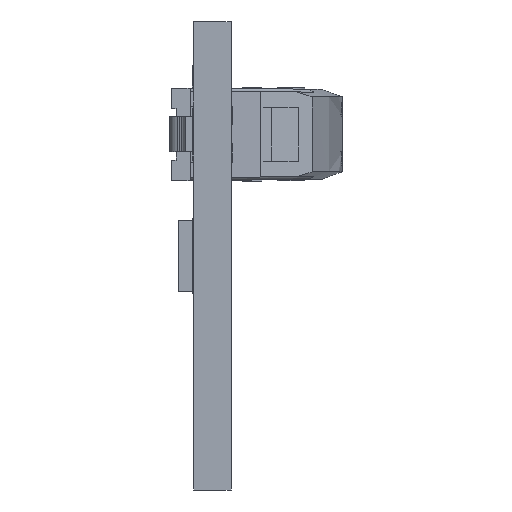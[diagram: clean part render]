
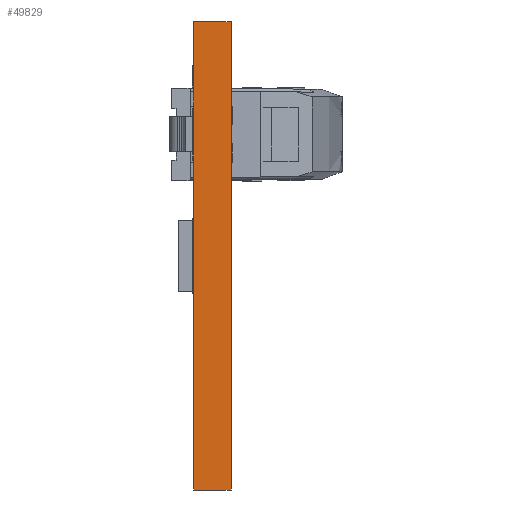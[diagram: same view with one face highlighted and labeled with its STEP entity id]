
A CAD part, left-side view. The second image highlights one B-rep face of the part: STEP entity #49829.
In plain terms, the highlighted planar face has unit normal (-1, 0, 0).
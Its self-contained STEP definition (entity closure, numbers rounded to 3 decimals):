
#530 = ORIENTED_EDGE ( 'NONE', *, *, #97713, .T. ) ;
#2016 = DIRECTION ( 'NONE',  ( 0., 1., 0. ) ) ;
#5405 = EDGE_CURVE ( 'NONE', #66567, #83812, #59468, .T. ) ;
#8150 = VECTOR ( 'NONE', #2016, 1000. ) ;
#9091 = CARTESIAN_POINT ( 'NONE',  ( 0., -1.6, 0. ) ) ;
#12794 = CARTESIAN_POINT ( 'NONE',  ( 0., 0., -20. ) ) ;
#16591 = CARTESIAN_POINT ( 'NONE',  ( 0., -1.6, 0. ) ) ;
#17462 = LINE ( 'NONE', #99041, #37831 ) ;
#18384 = EDGE_CURVE ( 'NONE', #40760, #66567, #84969, .T. ) ;
#18849 = VECTOR ( 'NONE', #37170, 1000. ) ;
#20059 = EDGE_CURVE ( 'NONE', #31280, #83812, #17462, .T. ) ;
#24021 = VECTOR ( 'NONE', #97526, 1000. ) ;
#24657 = EDGE_LOOP ( 'NONE', ( #89049, #95926, #28518, #530 ) ) ;
#26890 = PLANE ( 'NONE',  #96094 ) ;
#28487 = LINE ( 'NONE', #9091, #8150 ) ;
#28518 = ORIENTED_EDGE ( 'NONE', *, *, #18384, .F. ) ;
#31280 = VERTEX_POINT ( 'NONE', #38473 ) ;
#34567 = CARTESIAN_POINT ( 'NONE',  ( 0., -1.6, 0. ) ) ;
#37170 = DIRECTION ( 'NONE',  ( 0., 1., 0. ) ) ;
#37831 = VECTOR ( 'NONE', #45607, 1000. ) ;
#38473 = CARTESIAN_POINT ( 'NONE',  ( 0., 0., 0. ) ) ;
#40760 = VERTEX_POINT ( 'NONE', #16591 ) ;
#42256 = DIRECTION ( 'NONE',  ( 1., 0., 0. ) ) ;
#45607 = DIRECTION ( 'NONE',  ( 0., 0., -1. ) ) ;
#49829 = ADVANCED_FACE ( 'NONE', ( #84740 ), #26890, .F. ) ;
#59468 = LINE ( 'NONE', #60803, #18849 ) ;
#60803 = CARTESIAN_POINT ( 'NONE',  ( 0., -1.6, -20. ) ) ;
#62156 = CARTESIAN_POINT ( 'NONE',  ( 0., -1.6, 0. ) ) ;
#66567 = VERTEX_POINT ( 'NONE', #68061 ) ;
#68061 = CARTESIAN_POINT ( 'NONE',  ( 0., -1.6, -20. ) ) ;
#83812 = VERTEX_POINT ( 'NONE', #12794 ) ;
#84740 = FACE_OUTER_BOUND ( 'NONE', #24657, .T. ) ;
#84969 = LINE ( 'NONE', #62156, #24021 ) ;
#89049 = ORIENTED_EDGE ( 'NONE', *, *, #20059, .T. ) ;
#95681 = DIRECTION ( 'NONE',  ( 0., 0., -1. ) ) ;
#95926 = ORIENTED_EDGE ( 'NONE', *, *, #5405, .F. ) ;
#96094 = AXIS2_PLACEMENT_3D ( 'NONE', #34567, #42256, #95681 ) ;
#97526 = DIRECTION ( 'NONE',  ( 0., 0., -1. ) ) ;
#97713 = EDGE_CURVE ( 'NONE', #40760, #31280, #28487, .T. ) ;
#99041 = CARTESIAN_POINT ( 'NONE',  ( 0., 0., 0. ) ) ;
